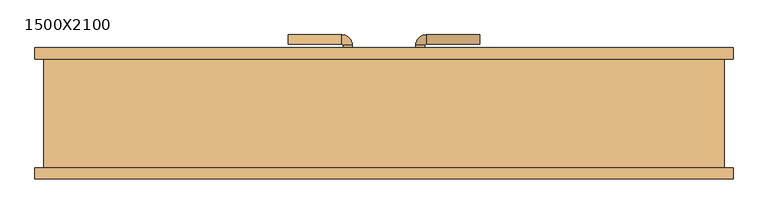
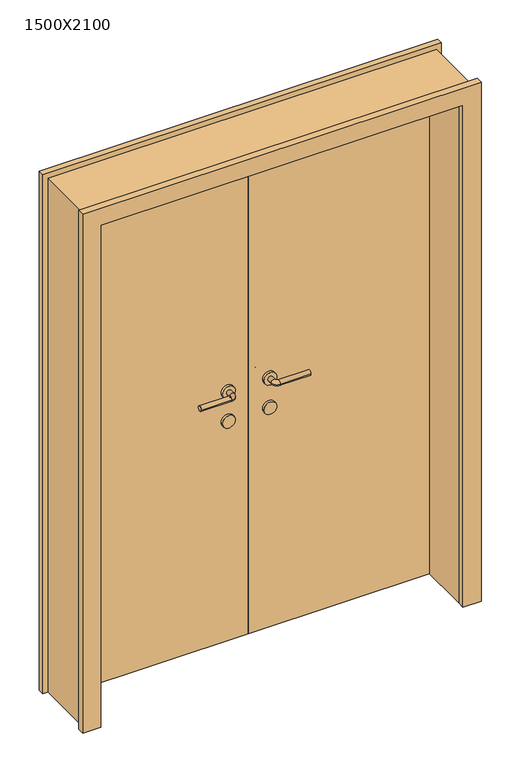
"""IFC4 building model written with IfcOpenShell, lengths in millimetres: door geometry, 双面嵌板木门 1 : 1500X2100."""

import ifcopenshell
import ifcopenshell.guid

model = None  # the IFC model being written
_history = None  # IfcOwnerHistory: only IFC2X3 demands one
_inside = {}  # id of a spatial element -> (the spatial element, [elements in it])
_under = {}  # id of a project, library or spatial element -> (it, [spatial elements below it])
_declared = {}  # id of a project -> (the project, [libraries it declares])
_typed = {}  # id of a type object -> (the type object, [elements of that type])
_made_of = {}  # id of a material, layer set ... -> (it, [elements and type objects made of it])


def new_model(schema):
    """Start an empty IFC model of exactly this schema.

    Asked for "IFC4X3", IfcOpenShell would pick the latest addendum, in which some entities
    have other attributes; the version numbers below select the first issue.
    IFC2X3 requires an IfcOwnerHistory on every rooted entity: one is made here for all.
    """
    global model, _history
    if schema == "IFC4X3":
        model = ifcopenshell.file(schema_version=(4, 3, 0, 0))
    else:
        model = ifcopenshell.file(schema=schema)
    _inside.clear()
    _under.clear()
    _declared.clear()
    _typed.clear()
    _made_of.clear()
    _history = None
    if model.schema == "IFC2X3":
        org = make("IfcOrganization", Name="unknown")
        user = make(
            "IfcPersonAndOrganization",
            ThePerson=make("IfcPerson", FamilyName="unknown"),
            TheOrganization=org,
        )
        app = make(
            "IfcApplication",
            ApplicationDeveloper=org,
            Version="unknown",
            ApplicationFullName="unknown",
            ApplicationIdentifier="unknown",
        )
        _history = make(
            "IfcOwnerHistory",
            OwningUser=user,
            OwningApplication=app,
            ChangeAction="ADDED",
            CreationDate=0,
        )
    return model


def make(cls, **values):
    """One entity of the class cls with the attributes given. An attribute that is None is left unset."""
    return model.create_entity(
        cls, **{name: value for name, value in values.items() if value is not None}
    )


def rooted(cls, **values):
    """An entity with a GlobalId (a new one), such as an element, a storey or a relation."""
    return make(cls, GlobalId=ifcopenshell.guid.new(), OwnerHistory=_history, **values)


def si_unit(unit_type, name, prefix=None):
    """IfcSIUnit, for example si_unit("LENGTHUNIT", "METRE", prefix="MILLI")."""
    return make("IfcSIUnit", UnitType=unit_type, Prefix=prefix, Name=name)


def assignment(units):
    """IfcUnitAssignment: the units of a project."""
    return None if units is None else make("IfcUnitAssignment", Units=units)


def point(xyz):
    """IfcCartesianPoint."""
    return None if xyz is None else make("IfcCartesianPoint", Coordinates=xyz)


def direction(xyz):
    """IfcDirection."""
    return None if xyz is None else make("IfcDirection", DirectionRatios=xyz)


def frame(location, z_axis=None, x_axis=None):
    """IfcAxis2Placement3D, a coordinate frame: its origin and axes. An axis left out is left unset."""
    return make(
        "IfcAxis2Placement3D",
        Location=point(location),
        Axis=direction(z_axis),
        RefDirection=direction(x_axis),
    )


def frame_2d(location, x_axis=None):
    """IfcAxis2Placement2D, a coordinate frame in the plane: its origin and x axis."""
    return make(
        "IfcAxis2Placement2D", Location=point(location), RefDirection=direction(x_axis)
    )


def origin():
    """The frame at (0, 0, 0) with its axes left unset."""
    return frame((0.0, 0.0, 0.0))


def origin_with_axes():
    """The frame at (0, 0, 0) with the z axis (0, 0, 1) and the x axis (1, 0, 0) written out."""
    return frame((0.0, 0.0, 0.0), z_axis=(0.0, 0.0, 1.0), x_axis=(1.0, 0.0, 0.0))


def place(relative_to, where):
    """IfcLocalPlacement: puts the frame where relative to a parent placement (None: the world)."""
    return make(
        "IfcLocalPlacement", PlacementRelTo=relative_to, RelativePlacement=where
    )


def context(
    kind, dimensions, precision=None, world=None, true_north=None, identifier=None
):
    """IfcGeometricRepresentationContext, for example the 3D "Model" context."""
    return make(
        "IfcGeometricRepresentationContext",
        ContextIdentifier=identifier,
        ContextType=kind,
        CoordinateSpaceDimension=dimensions,
        Precision=precision,
        WorldCoordinateSystem=world,
        TrueNorth=true_north,
    )


def project(units=None, contexts=None):
    """IfcProject with its units and contexts."""
    return rooted(
        "IfcProject",
        Name="project",
        RepresentationContexts=contexts,
        UnitsInContext=assignment(units),
    )


def spatial(cls, under=None, at=None, **own):
    """A site, building, storey or space (cls), placed at a placement, below another one or the project."""
    s = rooted(cls, ObjectPlacement=at, **own)
    if under is not None:
        _under.setdefault(under.id(), (under, []))[1].append(s)
    return s


def polyline(points):
    """IfcPolyline through the points."""
    return make("IfcPolyline", Points=[point(p) for p in points])


def circle_curve(where, radius):
    """IfcCircle in the frame where."""
    return make("IfcCircle", Position=where, Radius=radius)


def ellipse_curve(where, semi_axis1, semi_axis2):
    """IfcEllipse in the frame where."""
    return make(
        "IfcEllipse", Position=where, SemiAxis1=semi_axis1, SemiAxis2=semi_axis2
    )


def trimmed(basis, trim1, trim2, sense, master):
    """IfcTrimmedCurve: the piece of a basis curve between two trims."""
    return make(
        "IfcTrimmedCurve",
        BasisCurve=basis,
        Trim1=trim1,
        Trim2=trim2,
        SenseAgreement=sense,
        MasterRepresentation=master,
    )


def segment(curve, same_sense, transition):
    """IfcCompositeCurveSegment."""
    return make(
        "IfcCompositeCurveSegment",
        Transition=transition,
        SameSense=same_sense,
        ParentCurve=curve,
    )


def composite_curve(segments, self_intersect=None):
    """IfcCompositeCurve: segments joined end to end."""
    return make("IfcCompositeCurve", Segments=segments, SelfIntersect=self_intersect)


def outline(outer, holes=None, kind="AREA"):
    """IfcArbitraryClosedProfileDef: a profile drawn as a closed curve; with holes, ...WithVoids."""
    if holes is None:
        return make("IfcArbitraryClosedProfileDef", ProfileType=kind, OuterCurve=outer)
    return make(
        "IfcArbitraryProfileDefWithVoids",
        ProfileType=kind,
        OuterCurve=outer,
        InnerCurves=holes,
    )


def extrude(swept, where, along, depth):
    """IfcExtrudedAreaSolid: the profile swept, set in the frame where, extruded along a direction by depth."""
    return make(
        "IfcExtrudedAreaSolid",
        SweptArea=swept,
        Position=where,
        ExtrudedDirection=direction(along),
        Depth=depth,
    )


def shape(context_of_items, identifier, shape_type, items):
    """IfcShapeRepresentation: the items that make up one representation, for example the "Body"."""
    return make(
        "IfcShapeRepresentation",
        ContextOfItems=context_of_items,
        RepresentationIdentifier=identifier,
        RepresentationType=shape_type,
        Items=items,
    )


def source(mapping_origin, context_of_items, identifier, shape_type, items):
    """IfcRepresentationMap: a shape defined once, which mapped items show again and again."""
    return make(
        "IfcRepresentationMap",
        MappingOrigin=mapping_origin,
        MappedRepresentation=shape(context_of_items, identifier, shape_type, items),
    )


def transform(
    local_origin,
    x_axis=None,
    y_axis=None,
    z_axis=None,
    scale=None,
    scale2=None,
    scale3=None,
    uniform=True,
):
    """IfcCartesianTransformationOperator3D, or its non-uniform kind. x_axis, y_axis, z_axis: its Axis1, 2, 3."""
    if uniform:
        return make(
            "IfcCartesianTransformationOperator3D",
            Axis1=direction(x_axis),
            Axis2=direction(y_axis),
            LocalOrigin=point(local_origin),
            Scale=scale,
            Axis3=direction(z_axis),
        )
    return make(
        "IfcCartesianTransformationOperator3DnonUniform",
        Axis1=direction(x_axis),
        Axis2=direction(y_axis),
        LocalOrigin=point(local_origin),
        Scale=scale,
        Axis3=direction(z_axis),
        Scale2=scale2,
        Scale3=scale3,
    )


def mapped(mapping_source, mapping_target):
    """IfcMappedItem: shows the shape of a source again, moved by a transform."""
    return make(
        "IfcMappedItem", MappingSource=mapping_source, MappingTarget=mapping_target
    )


def made_of(thing, what):
    """Note that an element or type object is made of a material, layer set ...; save() writes the relation."""
    if what is not None:
        _made_of.setdefault(what.id(), (what, []))[1].append(thing)
    return thing


def element(
    cls,
    number,
    at=None,
    inside=None,
    cuts=None,
    type_object=None,
    material=None,
    context=None,
    identifier="Body",
    shape_type=None,
    held_by="IfcProductDefinitionShape",
    body=None,
    shapes=None,
    **own,
):
    """One element of the class cls, such as IfcWall. Its Tag is "e" and its number.

    at: its placement. inside: the storey or other place that contains it. cuts: it is an
    opening in that element (IfcRelVoidsElement). A single representation is given by context,
    identifier, shape_type and body (its items); several are given by shapes. held_by: the class
    of the entity that holds the representations. save() writes the other relations.
    """
    e = rooted(cls, Tag="e%d" % number, ObjectPlacement=at, **own)
    if body is not None:
        shapes = [shape(context, identifier, shape_type, body)]
    if shapes is not None:
        e.Representation = make(held_by, Representations=shapes)
    if inside is not None:
        _inside.setdefault(inside.id(), (inside, []))[1].append(e)
    if cuts is not None:
        rooted(
            "IfcRelVoidsElement", RelatingBuildingElement=cuts, RelatedOpeningElement=e
        )
    if type_object is not None:
        _typed.setdefault(type_object.id(), (type_object, []))[1].append(e)
    return made_of(e, material)


def aggregate(whole, parts):
    """IfcRelAggregates: a whole, such as a stair, and the parts it consists of."""
    return rooted("IfcRelAggregates", RelatingObject=whole, RelatedObjects=parts)


def save(model, path):
    """Write the relations noted so far, then the file.

    IfcRelAggregates (storeys below a building ...), IfcRelContainedInSpatialStructure (elements
    in a storey), IfcRelDefinesByType, IfcRelAssociatesMaterial and IfcRelDeclares: one each for
    every whole, place, type object, material and project.
    """
    for whole, parts in _under.values():
        aggregate(whole, parts)
    for where, things in _inside.values():
        rooted(
            "IfcRelContainedInSpatialStructure",
            RelatedElements=things,
            RelatingStructure=where,
        )
    for kind, things in _typed.values():
        rooted("IfcRelDefinesByType", RelatedObjects=things, RelatingType=kind)
    for what, things in _made_of.values():
        rooted("IfcRelAssociatesMaterial", RelatedObjects=things, RelatingMaterial=what)
    for by, libraries in _declared.values():
        rooted("IfcRelDeclares", RelatingContext=by, RelatedDefinitions=libraries)
    model.write(path)


def plane_surface(at):
    """IfcPlane: the flat surface through the origin of the frame at, square to its z axis."""
    return make("IfcPlane", Position=at)


def cylinder_surface(at, radius):
    """IfcCylindricalSurface: all points at the distance radius from the z axis of the frame at."""
    return make("IfcCylindricalSurface", Position=at, Radius=radius)


def revolved_surface(curve, axis_point, axis_direction):
    """IfcSurfaceOfRevolution: the curve turned about the line through axis_point along axis_direction."""
    return make(
        "IfcSurfaceOfRevolution",
        SweptCurve=make("IfcArbitraryOpenProfileDef", ProfileType="CURVE", Curve=curve),
        AxisPosition=make("IfcAxis1Placement", Location=point(axis_point), Axis=direction(axis_direction)),
    )


def advanced_brep(points, edges, surfaces, faces):
    """IfcAdvancedBrep: a solid bounded by faces that lie on surfaces and meet in shared edges.

    An edge is (start, end): straight between two places in points (the first is 0);
    or (start, end, curve); or (start, end, curve, False) where it runs against its curve.
    A face is (place in surfaces, loops), or (place, loops, False) where it looks against
    its surface's normal. A loop lists edges by number (the first is 1), with a minus sign
    where the edge is run from its end to its start. The first loop is the outer one.
    """
    corners = [point(p) for p in points]
    vertices = [make("IfcVertexPoint", VertexGeometry=c) for c in corners]
    made = []
    for start, end, *more in edges:
        made.append(
            make(
                "IfcEdgeCurve",
                EdgeStart=vertices[start],
                EdgeEnd=vertices[end],
                EdgeGeometry=more[0] if more else make("IfcPolyline", Points=[corners[start], corners[end]]),
                SameSense=more[1] if len(more) > 1 else True,
            )
        )
    hull = []
    for where, loops, *sense in faces:
        bounds = []
        for j, loop in enumerate(loops):
            ring = [make("IfcOrientedEdge", EdgeElement=made[abs(k) - 1], Orientation=k > 0) for k in loop]
            bounds.append(
                make(
                    "IfcFaceOuterBound" if j == 0 else "IfcFaceBound",
                    Bound=make("IfcEdgeLoop", EdgeList=ring),
                    Orientation=True,
                )
            )
        hull.append(make("IfcAdvancedFace", Bounds=bounds, FaceSurface=surfaces[where], SameSense=sense[0] if sense else True))
    return make("IfcAdvancedBrep", Outer=make("IfcClosedShell", CfsFaces=hull))


def door_1500x2100_cd5af115(model_context):
    return source(origin(), model_context, "Body", "SolidModel", [
        extrude(outline(composite_curve([segment(trimmed(circle_curve(frame_2d((900.0, 80.0)), 25.0), [point((900.0, 105.0))], [point((900.0, 55.0))], False, "CARTESIAN"), True, "CONTINUOUS"), segment(trimmed(circle_curve(frame_2d((900.0, 80.0)), 25.0), [point((900.0, 55.0))], [point((900.0, 105.0))], False, "CARTESIAN"), True, "CONTINUOUS")], self_intersect=False)), frame((0.0, 120.0, 0.0), z_axis=(0.0, 1.0, 0.0), x_axis=(0.0, 0.0, 1.0)), (0.0, 0.0, 1.0), 10.0),
        extrude(outline(composite_curve([segment(trimmed(circle_curve(frame_2d((900.0, 80.0)), 25.0), [point((900.0, 105.0))], [point((900.0, 55.0))], False, "CARTESIAN"), True, "CONTINUOUS"), segment(trimmed(circle_curve(frame_2d((900.0, 80.0)), 25.0), [point((900.0, 55.0))], [point((900.0, 105.0))], False, "CARTESIAN"), True, "CONTINUOUS")], self_intersect=False)), frame((0.0, 70.0, 0.0), z_axis=(0.0, 1.0, 0.0), x_axis=(0.0, 0.0, 1.0)), (0.0, 0.0, 1.0), 10.0),
        advanced_brep(
        [(70.0, 130.0, 1020.0), (90.0, 130.0, 1020.0), (70.0, 150.6133551, 1020.0), (90.0, 150.6133551, 1020.0), (211.580964, 173.580964, 1020.0), (211.580964, 153.580964, 1020.0), (92.9676089, 153.580964, 1020.0), (92.9676089, 173.580964, 1020.0)],
        [
            (0, 1, circle_curve(frame((80.0, 130.0, 1020.0), z_axis=(0.0, -1.0, 0.0), x_axis=(1.0, 0.0, 0.0)), 10.0)),
            (1, 0, circle_curve(frame((80.0, 130.0, 1020.0), z_axis=(0.0, -1.0, 0.0), x_axis=(1.0, 0.0, 0.0)), 10.0)),
            (0, 2),
            (2, 3, circle_curve(frame((80.0, 150.6133551, 1020.0), z_axis=(0.0, -1.0, 0.0), x_axis=(1.0, 0.0, 0.0)), 10.0)),
            (3, 1),
            (3, 2, circle_curve(frame((80.0, 150.6133551, 1020.0), z_axis=(0.0, -1.0, 0.0), x_axis=(1.0, 0.0, 0.0)), 10.0)),
            (4, 5, circle_curve(frame((211.580964, 163.580964, 1020.0), z_axis=(1.0, 0.0, 0.0), x_axis=(0.0, -1.0, 0.0)), 10.0)),
            (5, 4, circle_curve(frame((211.580964, 163.580964, 1020.0), z_axis=(1.0, 0.0, 0.0), x_axis=(0.0, -1.0, 0.0)), 10.0)),
            (6, 7, circle_curve(frame((92.9676089, 163.580964, 1020.0), z_axis=(-1.0, 0.0, 0.0), x_axis=(0.0, -1.0, 0.0)), 10.0)),
            (7, 2, circle_curve(frame((92.9676089, 150.6133551, 1020.0), z_axis=(0.0, 0.0, 1.0), x_axis=(-1.0, 0.0, 0.0)), 22.9676089)),
            (3, 6, circle_curve(frame((92.9676089, 150.6133551, 1020.0), z_axis=(0.0, 0.0, -1.0), x_axis=(-1.0, 0.0, 0.0)), 2.9676089)),
            (7, 6, circle_curve(frame((92.9676089, 163.580964, 1020.0), z_axis=(-1.0, 0.0, 0.0), x_axis=(0.0, -1.0, 0.0)), 10.0)),
            (6, 5),
            (4, 7),
        ],
        [
            plane_surface(frame((80.0, 130.0, 900.0), z_axis=(0.0, -1.0, 0.0), x_axis=(0.0, 0.0, 1.0))),
            cylinder_surface(frame((80.0, 130.0, 1020.0), z_axis=(0.0, -1.0, 0.0), x_axis=(1.0, 0.0, 0.0)), 10.0),
            plane_surface(frame((211.580964, 163.580964, 900.0), z_axis=(1.0, 0.0, 0.0), x_axis=(0.0, 0.0, 1.0))),
            revolved_surface(trimmed(ellipse_curve(frame((80.0, 150.6133551, 1020.0), z_axis=(0.0, 1.0, 0.0), x_axis=(1.0, 0.0, 0.0)), 10.0, 10.0), [point((70.0, 150.6133551, 1020.0))], [point((90.0, 150.6133551, 1020.0))], True, "CARTESIAN"), (92.9676089, 150.6133551, 900.0), (0.0, 0.0, 1.0)),
            revolved_surface(trimmed(ellipse_curve(frame((80.0, 150.6133551, 1020.0), z_axis=(0.0, 1.0, 0.0), x_axis=(1.0, 0.0, 0.0)), 10.0, 10.0), [point((90.0, 150.6133551, 1020.0))], [point((70.0, 150.6133551, 1020.0))], True, "CARTESIAN"), (92.9676089, 150.6133551, 900.0), (0.0, 0.0, 1.0)),
            cylinder_surface(frame((92.9676089, 163.580964, 1020.0), z_axis=(-1.0, 0.0, 0.0), x_axis=(0.0, -1.0, 0.0)), 10.0),
        ],
        [
            (0, [[1, 2]]),
            (1, [[3, 4, 5, -1]]),
            (1, [[-5, 6, -3, -2]]),
            (2, [[7, 8]]),
            (3, [[9, 10, -6, 11]]),
            (4, [[12, -11, -4, -10]]),
            (5, [[13, -7, 14, -9]]),
            (5, [[-14, -8, -13, -12]]),
        ],
    ),
        extrude(outline(composite_curve([segment(trimmed(circle_curve(frame_2d((1020.0, 80.0)), 25.0), [point((1020.0, 105.0))], [point((1020.0, 55.0))], False, "CARTESIAN"), True, "CONTINUOUS"), segment(trimmed(circle_curve(frame_2d((1020.0, 80.0)), 25.0), [point((1020.0, 55.0))], [point((1020.0, 105.0))], False, "CARTESIAN"), True, "CONTINUOUS")], self_intersect=False)), frame((0.0, 120.0, 0.0), z_axis=(0.0, 1.0, 0.0), x_axis=(0.0, 0.0, 1.0)), (0.0, 0.0, 1.0), 10.0),
        advanced_brep(
        [(90.0, 70.0, 1020.0), (70.0, 70.0, 1020.0), (70.0, 49.386645, 1020.0), (90.0, 49.386645, 1020.0), (211.580964, 46.419036, 1020.0), (211.580964, 26.419036, 1020.0), (92.9676089, 26.419036, 1020.0), (92.9676089, 46.419036, 1020.0)],
        [
            (0, 1, circle_curve(frame((80.0, 70.0, 1020.0), z_axis=(0.0, 1.0, 0.0), x_axis=(-1.0, 0.0, 0.0)), 10.0)),
            (1, 0, circle_curve(frame((80.0, 70.0, 1020.0), z_axis=(0.0, 1.0, 0.0), x_axis=(-1.0, 0.0, 0.0)), 10.0)),
            (1, 2),
            (2, 3, circle_curve(frame((80.0, 49.386645, 1020.0), z_axis=(0.0, 1.0, 0.0), x_axis=(-1.0, 0.0, 0.0)), 10.0)),
            (3, 0),
            (3, 2, circle_curve(frame((80.0, 49.386645, 1020.0), z_axis=(0.0, 1.0, 0.0), x_axis=(-1.0, 0.0, 0.0)), 10.0)),
            (4, 5, circle_curve(frame((211.580964, 36.419036, 1020.0), z_axis=(1.0, 0.0, 0.0), x_axis=(0.0, -1.0, 0.0)), 10.0)),
            (5, 4, circle_curve(frame((211.580964, 36.419036, 1020.0), z_axis=(1.0, 0.0, 0.0), x_axis=(0.0, -1.0, 0.0)), 10.0)),
            (6, 7, circle_curve(frame((92.9676089, 36.419036, 1020.0), z_axis=(-1.0, 0.0, 0.0), x_axis=(0.0, -1.0, 0.0)), 10.0)),
            (7, 3, circle_curve(frame((92.9676089, 49.386645, 1020.0), z_axis=(0.0, 0.0, -1.0), x_axis=(-1.0, 0.0, 0.0)), 2.9676089)),
            (2, 6, circle_curve(frame((92.9676089, 49.386645, 1020.0), z_axis=(0.0, 0.0, 1.0), x_axis=(-1.0, 0.0, 0.0)), 22.9676089)),
            (7, 6, circle_curve(frame((92.9676089, 36.419036, 1020.0), z_axis=(-1.0, 0.0, 0.0), x_axis=(0.0, -1.0, 0.0)), 10.0)),
            (6, 5),
            (4, 7),
        ],
        [
            plane_surface(frame((80.0, 70.0, 900.0), z_axis=(0.0, 1.0, 0.0), x_axis=(0.0, 0.0, 1.0))),
            cylinder_surface(frame((80.0, 70.0, 1020.0), z_axis=(0.0, 1.0, 0.0), x_axis=(-1.0, 0.0, 0.0)), 10.0),
            plane_surface(frame((211.580964, 36.419036, 900.0), z_axis=(1.0, 0.0, 0.0), x_axis=(0.0, 0.0, 1.0))),
            revolved_surface(trimmed(ellipse_curve(frame((80.0, 49.386645, 1020.0), z_axis=(0.0, -1.0, 0.0), x_axis=(-1.0, 0.0, 0.0)), 10.0, 10.0), [point((90.0, 49.386645, 1020.0))], [point((70.0, 49.386645, 1020.0))], True, "CARTESIAN"), (92.9676089, 49.386645, 900.0), (0.0, 0.0, -1.0)),
            revolved_surface(trimmed(ellipse_curve(frame((80.0, 49.386645, 1020.0), z_axis=(0.0, -1.0, 0.0), x_axis=(-1.0, 0.0, 0.0)), 10.0, 10.0), [point((70.0, 49.386645, 1020.0))], [point((90.0, 49.386645, 1020.0))], True, "CARTESIAN"), (92.9676089, 49.386645, 900.0), (0.0, 0.0, -1.0)),
            cylinder_surface(frame((92.9676089, 36.419036, 1020.0), z_axis=(-1.0, 0.0, 0.0), x_axis=(0.0, -1.0, 0.0)), 10.0),
        ],
        [
            (0, [[1, 2]]),
            (1, [[3, 4, 5, -2]]),
            (1, [[-5, 6, -3, -1]]),
            (2, [[7, 8]]),
            (3, [[9, 10, -4, 11]]),
            (4, [[12, -11, -6, -10]]),
            (5, [[13, -7, 14, -9]]),
            (5, [[-14, -8, -13, -12]]),
        ],
    ),
        extrude(outline(composite_curve([segment(trimmed(circle_curve(frame_2d((1020.0, 80.0)), 25.0), [point((1020.0, 105.0))], [point((1020.0, 55.0))], False, "CARTESIAN"), True, "CONTINUOUS"), segment(trimmed(circle_curve(frame_2d((1020.0, 80.0)), 25.0), [point((1020.0, 55.0))], [point((1020.0, 105.0))], False, "CARTESIAN"), True, "CONTINUOUS")], self_intersect=False)), frame((0.0, 70.0, 0.0), z_axis=(0.0, 1.0, 0.0), x_axis=(0.0, 0.0, 1.0)), (0.0, 0.0, 1.0), 10.0),
        extrude(outline(composite_curve([segment(trimmed(circle_curve(frame_2d((900.0, -80.0)), 25.0), [point((900.0, -105.0))], [point((900.0, -55.0))], False, "CARTESIAN"), True, "CONTINUOUS"), segment(trimmed(circle_curve(frame_2d((900.0, -80.0)), 25.0), [point((900.0, -55.0))], [point((900.0, -105.0))], False, "CARTESIAN"), True, "CONTINUOUS")], self_intersect=False)), frame((0.0, 120.0, 0.0), z_axis=(0.0, 1.0, 0.0), x_axis=(0.0, 0.0, 1.0)), (0.0, 0.0, 1.0), 10.0),
        extrude(outline(composite_curve([segment(trimmed(circle_curve(frame_2d((900.0, -80.0)), 25.0), [point((900.0, -105.0))], [point((900.0, -55.0))], False, "CARTESIAN"), True, "CONTINUOUS"), segment(trimmed(circle_curve(frame_2d((900.0, -80.0)), 25.0), [point((900.0, -55.0))], [point((900.0, -105.0))], False, "CARTESIAN"), True, "CONTINUOUS")], self_intersect=False)), frame((0.0, 70.0, 0.0), z_axis=(0.0, 1.0, 0.0), x_axis=(0.0, 0.0, 1.0)), (0.0, 0.0, 1.0), 10.0),
        advanced_brep(
        [(-70.0, 130.0, 1020.0), (-90.0, 130.0, 1020.0), (-90.0, 150.6133551, 1020.0), (-70.0, 150.6133551, 1020.0), (-211.580964, 173.580964, 1020.0), (-211.580964, 153.580964, 1020.0), (-92.9676089, 153.580964, 1020.0), (-92.9676089, 173.580964, 1020.0)],
        [
            (0, 1, circle_curve(frame((-80.0, 130.0, 1020.0), z_axis=(0.0, -1.0, 0.0), x_axis=(-1.0, 0.0, 0.0)), 10.0)),
            (1, 0, circle_curve(frame((-80.0, 130.0, 1020.0), z_axis=(0.0, -1.0, 0.0), x_axis=(-1.0, 0.0, 0.0)), 10.0)),
            (1, 2),
            (2, 3, circle_curve(frame((-80.0, 150.6133551, 1020.0), z_axis=(0.0, -1.0, 0.0), x_axis=(-1.0, 0.0, 0.0)), 10.0)),
            (3, 0),
            (3, 2, circle_curve(frame((-80.0, 150.6133551, 1020.0), z_axis=(0.0, -1.0, 0.0), x_axis=(-1.0, 0.0, 0.0)), 10.0)),
            (4, 5, circle_curve(frame((-211.580964, 163.580964, 1020.0), z_axis=(-1.0, 0.0, 0.0), x_axis=(0.0, -1.0, 0.0)), 10.0)),
            (5, 4, circle_curve(frame((-211.580964, 163.580964, 1020.0), z_axis=(-1.0, 0.0, 0.0), x_axis=(0.0, -1.0, 0.0)), 10.0)),
            (6, 2, circle_curve(frame((-92.9676089, 150.6133551, 1020.0), z_axis=(0.0, 0.0, -1.0), x_axis=(1.0, 0.0, 0.0)), 2.9676089)),
            (3, 7, circle_curve(frame((-92.9676089, 150.6133551, 1020.0), z_axis=(0.0, 0.0, 1.0), x_axis=(1.0, 0.0, 0.0)), 22.9676089)),
            (7, 6, circle_curve(frame((-92.9676089, 163.580964, 1020.0), z_axis=(1.0, 0.0, 0.0), x_axis=(0.0, -1.0, 0.0)), 10.0)),
            (6, 7, circle_curve(frame((-92.9676089, 163.580964, 1020.0), z_axis=(1.0, 0.0, 0.0), x_axis=(0.0, -1.0, 0.0)), 10.0)),
            (7, 4),
            (5, 6),
        ],
        [
            plane_surface(frame((-80.0, 130.0, 900.0), z_axis=(0.0, -1.0, 0.0), x_axis=(0.0, 0.0, 1.0))),
            cylinder_surface(frame((-80.0, 130.0, 1020.0), z_axis=(0.0, -1.0, 0.0), x_axis=(-1.0, 0.0, 0.0)), 10.0),
            plane_surface(frame((-211.580964, 163.580964, 900.0), z_axis=(-1.0, 0.0, 0.0), x_axis=(0.0, 0.0, 1.0))),
            revolved_surface(trimmed(ellipse_curve(frame((-80.0, 150.6133551, 1020.0), z_axis=(0.0, -1.0, 0.0), x_axis=(-1.0, 0.0, 0.0)), 10.0, 10.0), [point((-70.0, 150.6133551, 1020.0))], [point((-90.0, 150.6133551, 1020.0))], True, "CARTESIAN"), (-92.9676089, 150.6133551, 900.0), (0.0, 0.0, 1.0)),
            revolved_surface(trimmed(ellipse_curve(frame((-80.0, 150.6133551, 1020.0), z_axis=(0.0, -1.0, 0.0), x_axis=(-1.0, 0.0, 0.0)), 10.0, 10.0), [point((-90.0, 150.6133551, 1020.0))], [point((-70.0, 150.6133551, 1020.0))], True, "CARTESIAN"), (-92.9676089, 150.6133551, 900.0), (0.0, 0.0, 1.0)),
            cylinder_surface(frame((-92.9676089, 163.580964, 1020.0), z_axis=(1.0, 0.0, 0.0), x_axis=(0.0, -1.0, 0.0)), 10.0),
        ],
        [
            (0, [[1, 2]]),
            (1, [[-2, 3, 4, 5]]),
            (1, [[-1, -5, 6, -3]]),
            (2, [[7, 8]]),
            (3, [[9, -6, 10, 11]]),
            (4, [[-10, -4, -9, 12]]),
            (5, [[-11, 13, -8, 14]]),
            (5, [[-12, -14, -7, -13]]),
        ],
    ),
        extrude(outline(composite_curve([segment(trimmed(circle_curve(frame_2d((1020.0, -80.0)), 25.0), [point((1020.0, -105.0))], [point((1020.0, -55.0))], False, "CARTESIAN"), True, "CONTINUOUS"), segment(trimmed(circle_curve(frame_2d((1020.0, -80.0)), 25.0), [point((1020.0, -55.0))], [point((1020.0, -105.0))], False, "CARTESIAN"), True, "CONTINUOUS")], self_intersect=False)), frame((0.0, 120.0, 0.0), z_axis=(0.0, 1.0, 0.0), x_axis=(0.0, 0.0, 1.0)), (0.0, 0.0, 1.0), 10.0),
        advanced_brep(
        [(-90.0, 70.0, 1020.0), (-70.0, 70.0, 1020.0), (-90.0, 49.386645, 1020.0), (-70.0, 49.386645, 1020.0), (-211.580964, 46.419036, 1020.0), (-211.580964, 26.419036, 1020.0), (-92.9676089, 26.419036, 1020.0), (-92.9676089, 46.419036, 1020.0)],
        [
            (0, 1, circle_curve(frame((-80.0, 70.0, 1020.0), z_axis=(0.0, 1.0, 0.0), x_axis=(1.0, 0.0, 0.0)), 10.0)),
            (1, 0, circle_curve(frame((-80.0, 70.0, 1020.0), z_axis=(0.0, 1.0, 0.0), x_axis=(1.0, 0.0, 0.0)), 10.0)),
            (0, 2),
            (2, 3, circle_curve(frame((-80.0, 49.386645, 1020.0), z_axis=(0.0, 1.0, 0.0), x_axis=(1.0, 0.0, 0.0)), 10.0)),
            (3, 1),
            (3, 2, circle_curve(frame((-80.0, 49.386645, 1020.0), z_axis=(0.0, 1.0, 0.0), x_axis=(1.0, 0.0, 0.0)), 10.0)),
            (4, 5, circle_curve(frame((-211.580964, 36.419036, 1020.0), z_axis=(-1.0, 0.0, 0.0), x_axis=(0.0, -1.0, 0.0)), 10.0)),
            (5, 4, circle_curve(frame((-211.580964, 36.419036, 1020.0), z_axis=(-1.0, 0.0, 0.0), x_axis=(0.0, -1.0, 0.0)), 10.0)),
            (6, 3, circle_curve(frame((-92.9676089, 49.386645, 1020.0), z_axis=(0.0, 0.0, 1.0), x_axis=(1.0, 0.0, 0.0)), 22.9676089)),
            (2, 7, circle_curve(frame((-92.9676089, 49.386645, 1020.0), z_axis=(0.0, 0.0, -1.0), x_axis=(1.0, 0.0, 0.0)), 2.9676089)),
            (7, 6, circle_curve(frame((-92.9676089, 36.419036, 1020.0), z_axis=(1.0, 0.0, 0.0), x_axis=(0.0, -1.0, 0.0)), 10.0)),
            (6, 7, circle_curve(frame((-92.9676089, 36.419036, 1020.0), z_axis=(1.0, 0.0, 0.0), x_axis=(0.0, -1.0, 0.0)), 10.0)),
            (7, 4),
            (5, 6),
        ],
        [
            plane_surface(frame((-80.0, 70.0, 900.0), z_axis=(0.0, 1.0, 0.0), x_axis=(0.0, 0.0, 1.0))),
            cylinder_surface(frame((-80.0, 70.0, 1020.0), z_axis=(0.0, 1.0, 0.0), x_axis=(1.0, 0.0, 0.0)), 10.0),
            plane_surface(frame((-211.580964, 36.419036, 900.0), z_axis=(-1.0, 0.0, 0.0), x_axis=(0.0, 0.0, 1.0))),
            revolved_surface(trimmed(ellipse_curve(frame((-80.0, 49.386645, 1020.0), z_axis=(0.0, 1.0, 0.0), x_axis=(1.0, 0.0, 0.0)), 10.0, 10.0), [point((-90.0, 49.386645, 1020.0))], [point((-70.0, 49.386645, 1020.0))], True, "CARTESIAN"), (-92.9676089, 49.386645, 900.0), (0.0, 0.0, -1.0)),
            revolved_surface(trimmed(ellipse_curve(frame((-80.0, 49.386645, 1020.0), z_axis=(0.0, 1.0, 0.0), x_axis=(1.0, 0.0, 0.0)), 10.0, 10.0), [point((-70.0, 49.386645, 1020.0))], [point((-90.0, 49.386645, 1020.0))], True, "CARTESIAN"), (-92.9676089, 49.386645, 900.0), (0.0, 0.0, -1.0)),
            cylinder_surface(frame((-92.9676089, 36.419036, 1020.0), z_axis=(1.0, 0.0, 0.0), x_axis=(0.0, -1.0, 0.0)), 10.0),
        ],
        [
            (0, [[1, 2]]),
            (1, [[-1, 3, 4, 5]]),
            (1, [[-2, -5, 6, -3]]),
            (2, [[7, 8]]),
            (3, [[9, -4, 10, 11]]),
            (4, [[-10, -6, -9, 12]]),
            (5, [[-11, 13, -8, 14]]),
            (5, [[-12, -14, -7, -13]]),
        ],
    ),
        extrude(outline(composite_curve([segment(trimmed(circle_curve(frame_2d((1020.0, -80.0)), 25.0), [point((1020.0, -105.0))], [point((1020.0, -55.0))], False, "CARTESIAN"), True, "CONTINUOUS"), segment(trimmed(circle_curve(frame_2d((1020.0, -80.0)), 25.0), [point((1020.0, -55.0))], [point((1020.0, -105.0))], False, "CARTESIAN"), True, "CONTINUOUS")], self_intersect=False)), frame((0.0, 70.0, 0.0), z_axis=(0.0, 1.0, 0.0), x_axis=(0.0, 0.0, 1.0)), (0.0, 0.0, 1.0), 10.0),
        extrude(outline(polyline([(0.0, 770.0), (2120.0, 770.0), (2120.0, -770.0), (0.0, -770.0), (0.0, -700.0), (2050.0, -700.0), (2050.0, 700.0), (0.0, 700.0), (0.0, 770.0)])), frame((0.0, 120.0, 0.0), z_axis=(0.0, 1.0, 0.0), x_axis=(0.0, 0.0, 1.0)), (0.0, 0.0, 1.0), 25.0),
        extrude(outline(polyline([(2120.0, 770.0), (2120.0, -770.0), (0.0, -770.0), (0.0, -700.0), (2050.0, -700.0), (2050.0, 700.0), (0.0, 700.0), (0.0, 770.0), (2120.0, 770.0)])), frame((0.0, -145.0, 0.0), z_axis=(0.0, 1.0, 0.0), x_axis=(0.0, 0.0, 1.0)), (0.0, 0.0, 1.0), 25.0),
        extrude(outline(polyline([(700.0, 80.0), (0.0, 80.0), (0.0, 120.0), (700.0, 120.0), (700.0, 80.0)])), origin_with_axes(), (0.0, 0.0, 1.0), 2050.0),
        extrude(outline(polyline([(0.0, 80.0), (-700.0, 80.0), (-700.0, 120.0), (0.0, 120.0), (0.0, 80.0)])), origin_with_axes(), (0.0, 0.0, 1.0), 2050.0),
        extrude(outline(polyline([(2100.0, -750.0), (0.0, -750.0), (0.0, -700.0), (2050.0, -700.0), (2050.0, 700.0), (0.0, 700.0), (0.0, 750.0), (2100.0, 750.0), (2100.0, -750.0)])), frame((0.0, -120.0, 0.0), z_axis=(0.0, 1.0, 0.0), x_axis=(0.0, 0.0, 1.0)), (0.0, 0.0, 1.0), 240.0),
    ])


if __name__ == "__main__":
    model = new_model("IFC4")
    model_context = context("Model", 3, world=origin())
    ifc_project = project(units=[si_unit("LENGTHUNIT", "METRE", prefix="MILLI")], contexts=[model_context])
    site = spatial("IfcSite", under=ifc_project)
    building = spatial("IfcBuilding", under=site)
    placement = place(None, origin())
    door_1500x2100_shape = door_1500x2100_cd5af115(model_context)
    element("IfcDoor", 1, ObjectType="双面嵌板木门 1 : 1500X2100", at=placement, inside=building, context=model_context, shape_type="MappedRepresentation", body=[
        mapped(door_1500x2100_shape, transform((0.0, 0.0, 0.0), x_axis=(1.0, 0.0, 0.0), y_axis=(0.0, 1.0, 0.0), z_axis=(0.0, 0.0, 1.0))),
    ])
    save(model, "model.ifc")
